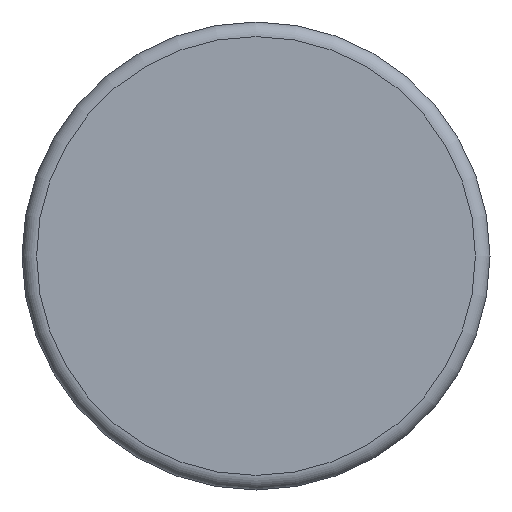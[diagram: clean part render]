
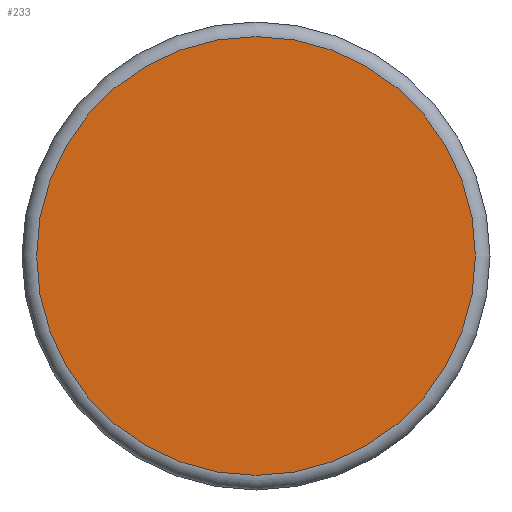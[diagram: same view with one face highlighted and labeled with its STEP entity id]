
A CAD part, front view. The second image highlights one B-rep face of the part: STEP entity #233.
In plain terms, the highlighted planar face has unit normal (0, -1, 0).
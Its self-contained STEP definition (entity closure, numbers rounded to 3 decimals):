
#233 = ADVANCED_FACE( '', ( #441 ), #442, .F. );
#441 = FACE_OUTER_BOUND( '', #623, .T. );
#442 = PLANE( '', #624 );
#623 = EDGE_LOOP( '', ( #1001 ) );
#624 = AXIS2_PLACEMENT_3D( '', #1002, #1003, #1004 );
#1001 = ORIENTED_EDGE( '', *, *, #1103, .T. );
#1002 = CARTESIAN_POINT( '', ( 15., 0., 0. ) );
#1003 = DIRECTION( '', ( 0., 1., 0. ) );
#1004 = DIRECTION( '', ( 0., 0., 1. ) );
#1103 = EDGE_CURVE( '', #1294, #1294, #1295, .T. );
#1294 = VERTEX_POINT( '', #1724 );
#1295 = CIRCLE( '', #1725, 15. );
#1724 = CARTESIAN_POINT( '', ( 0., 0., -15. ) );
#1725 = AXIS2_PLACEMENT_3D( '', #1900, #1901, #1902 );
#1900 = CARTESIAN_POINT( '', ( 0., 0., 0. ) );
#1901 = DIRECTION( '', ( 0., -1., 0. ) );
#1902 = DIRECTION( '', ( 0., 0., -1. ) );
